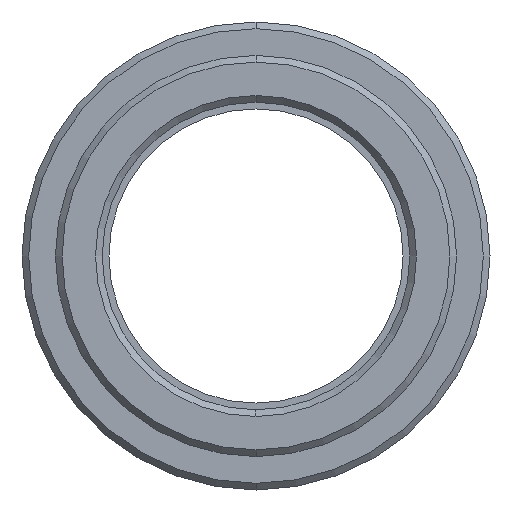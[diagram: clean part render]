
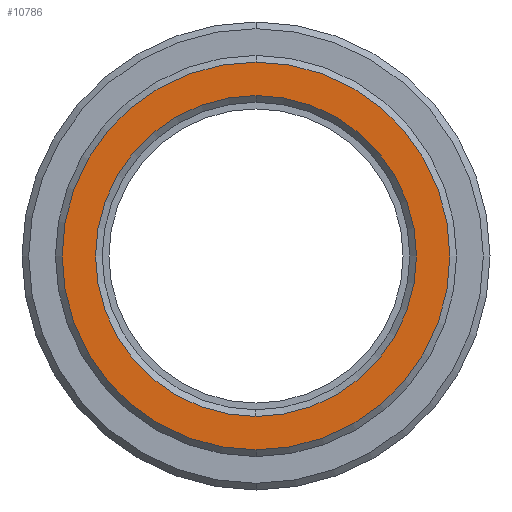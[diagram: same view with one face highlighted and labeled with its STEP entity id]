
A CAD part, left-side view. The second image highlights one B-rep face of the part: STEP entity #10786.
In plain terms, the highlighted planar face has unit normal (-1, 0, 0).
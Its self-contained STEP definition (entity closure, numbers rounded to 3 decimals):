
#4246=CARTESIAN_POINT('',(-8.,0.,
0.));
#4247=DIRECTION('',(1.,0.,0.));
#4248=DIRECTION('',(0.,0.,1.));
#4249=AXIS2_PLACEMENT_3D('',#4246,#4247,#4248);
#4251=CARTESIAN_POINT('',(-8.,0.,0.));
#4252=DIRECTION('',(1.,0.,0.));
#4253=DIRECTION('',(0.,0.,-1.));
#4254=AXIS2_PLACEMENT_3D('',#4251,#4252,#4253);
#4256=CARTESIAN_POINT('',(-8.,0.,0.));
#4257=DIRECTION('',(1.,0.,0.));
#4258=DIRECTION('',(0.,0.,1.));
#4259=AXIS2_PLACEMENT_3D('',#4256,#4257,#4258);
#4261=CARTESIAN_POINT('',(-8.,0.,
0.));
#4262=DIRECTION('',(1.,0.,0.));
#4263=DIRECTION('',(0.,0.,-1.));
#4264=AXIS2_PLACEMENT_3D('',#4261,#4262,#4263);
#9078=CARTESIAN_POINT('',(-8.,0.,12.));
#9079=CARTESIAN_POINT('',(-8.,0.,-12.));
#9080=VERTEX_POINT('',#9078);
#9081=VERTEX_POINT('',#9079);
#9086=CARTESIAN_POINT('',(-8.,0.,14.5));
#9087=CARTESIAN_POINT('',(-8.,0.,-14.5));
#9088=VERTEX_POINT('',#9086);
#9089=VERTEX_POINT('',#9087);
#10770=CARTESIAN_POINT('',(-8.,0.,0.));
#10771=DIRECTION('',(1.,0.,0.));
#10772=DIRECTION('',(0.,0.,1.));
#10773=AXIS2_PLACEMENT_3D('',#10770,#10771,#10772);
#10774=PLANE('',#10773);
#10776=ORIENTED_EDGE('',*,*,#10775,.T.);
#10778=ORIENTED_EDGE('',*,*,#10777,.T.);
#10779=EDGE_LOOP('',(#10776,#10778));
#10780=FACE_OUTER_BOUND('',#10779,.F.);
#10781=ORIENTED_EDGE('',*,*,#10760,.F.);
#10783=ORIENTED_EDGE('',*,*,#10782,.F.);
#10784=EDGE_LOOP('',(#10781,#10783));
#10785=FACE_BOUND('',#10784,.F.);
#10786=ADVANCED_FACE('',(#10780,#10785),#10774,.F.);
#4250=CIRCLE('',#4249,14.5);
#4255=CIRCLE('',#4254,14.5);
#4260=CIRCLE('',#4259,12.);
#4265=CIRCLE('',#4264,12.);
#10760=EDGE_CURVE('',#9080,#9081,#4260,.T.);
#10775=EDGE_CURVE('',#9088,#9089,#4250,.T.);
#10777=EDGE_CURVE('',#9089,#9088,#4255,.T.);
#10782=EDGE_CURVE('',#9081,#9080,#4265,.T.);
